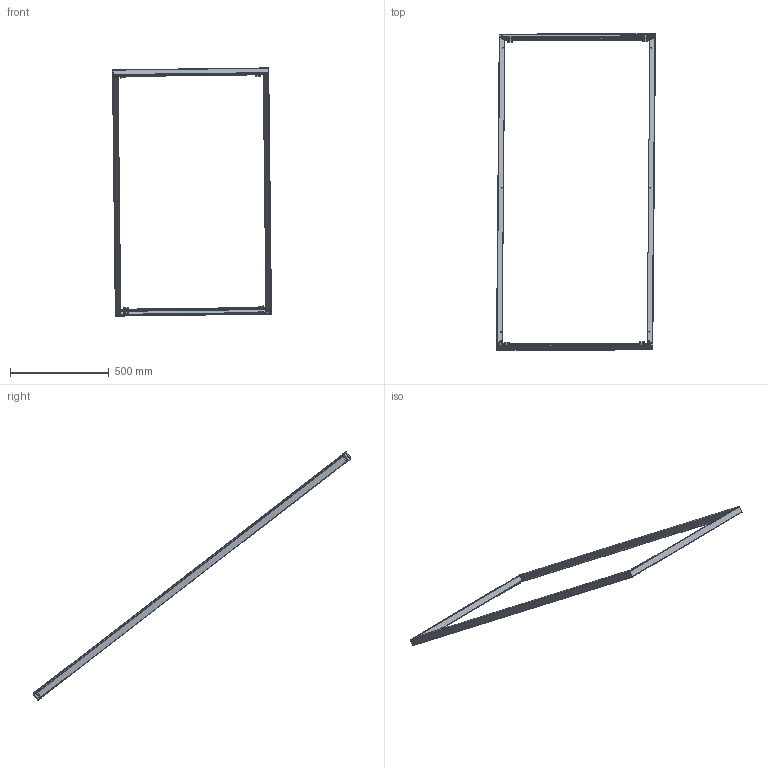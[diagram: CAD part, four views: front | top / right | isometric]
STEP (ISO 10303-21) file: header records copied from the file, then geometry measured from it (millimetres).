
FILE_DESCRIPTION (( 'STEP AP203' ), '1' );
FILE_NAME ('CJDN2008R5_V0.STEP', '2018-03-05T09:43:28', ( '' ), ( '' ), 'SwSTEP 2.0', 'SolidWorks 2017', '' );
FILE_SCHEMA (( 'CONFIG_CONTROL_DESIGN' ));
Length unit declared in the file: millimetre
Products named in the file (7): CJDN2008R5_V0; 9503-0126 Side cover; 9503-0125 Top cover; 9503-0125 Top cover_-02; 9503-0126 Side cover_-02
Assembly tree (4 placements, depth 2):
  CJDN2008R5_V0
    9503-0126 Side cover_-02  x2
    9503-0125 Top cover_-02  x2
  9503-0126 Side cover
  9503-0125 Top cover
  9503-0126 Side cover
  9503-0125 Top cover
Bounding box: 807.27 x 1606.97 x 1260.04 mm (x, y, z)
Volume: 653656 mm3; surface area: 890725.8 mm2
Topology: 4 solids, 4 shells, 566 faces, 1354 edges, 796 vertices
Faces by surface type: plane 356, cylinder 170, bspline 40
Entity records: 9336 total; most frequent: CARTESIAN_POINT 2248, ORIENTED_EDGE 1354, DIRECTION 1297, EDGE_CURVE 677, LINE 495, VECTOR 495, AXIS2_PLACEMENT_3D 401, VERTEX_POINT 398
